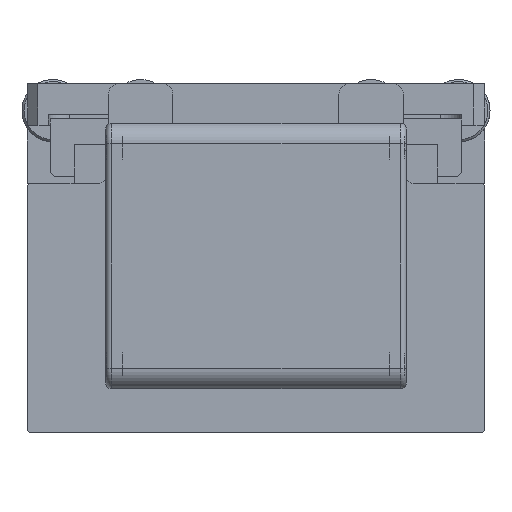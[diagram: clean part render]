
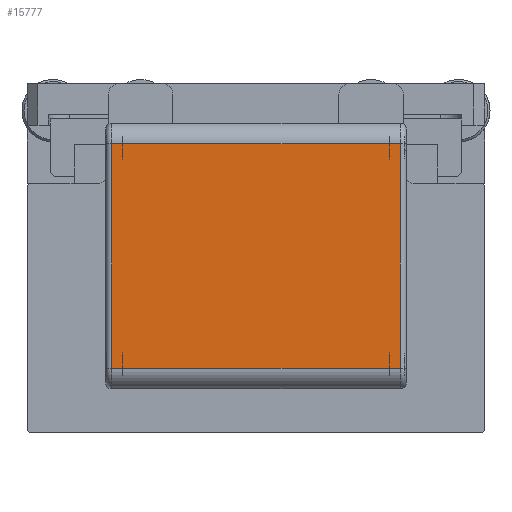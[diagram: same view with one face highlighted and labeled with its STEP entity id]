
A CAD part, front view. The second image highlights one B-rep face of the part: STEP entity #15777.
In plain terms, the highlighted planar face has unit normal (0, -1, 0) as drawn and (-1, 0, 0) by its records, which use the part's own axes.
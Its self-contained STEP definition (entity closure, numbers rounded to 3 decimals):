
#15578=CARTESIAN_POINT('',(-178.,142.,10.0));
#15579=VERTEX_POINT('',#15578);
#15622=CARTESIAN_POINT('',(-178.,142.,118.0));
#15623=VERTEX_POINT('',#15622);
#15640=CARTESIAN_POINT('',(-178.,142.,10.0));
#15641=DIRECTION('',(0.0,0.0,1.0));
#15642=VECTOR('',#15641,108.0);
#15643=LINE('',#15640,#15642);
#15644=EDGE_CURVE('',#15579,#15623,#15643,.T.);
#15747=CARTESIAN_POINT('',(-178.0,0.,0.0));
#15748=DIRECTION('',(-1.0,0.0,0.0));
#15749=DIRECTION('',(0.0,0.0,1.0));
#15750=AXIS2_PLACEMENT_3D('',#15747,#15748,#15749);
#15751=PLANE('',#15750);
#15752=ORIENTED_EDGE('',*,*,#15644,.F.);
#15753=CARTESIAN_POINT('',(-178.0,3.,10.0));
#15754=VERTEX_POINT('',#15753);
#15755=CARTESIAN_POINT('',(-178.0,3.,10.0));
#15756=DIRECTION('',(0.0,1.0,0.0));
#15757=VECTOR('',#15756,139.);
#15758=LINE('',#15755,#15757);
#15759=EDGE_CURVE('',#15754,#15579,#15758,.T.);
#15760=ORIENTED_EDGE('',*,*,#15759,.F.);
#15761=CARTESIAN_POINT('',(-178.0,3.,118.0));
#15762=VERTEX_POINT('',#15761);
#15763=CARTESIAN_POINT('',(-178.0,3.,118.0));
#15764=DIRECTION('',(0.0,0.0,-1.0));
#15765=VECTOR('',#15764,108.0);
#15766=LINE('',#15763,#15765);
#15767=EDGE_CURVE('',#15762,#15754,#15766,.T.);
#15768=ORIENTED_EDGE('',*,*,#15767,.F.);
#15769=CARTESIAN_POINT('',(-178.,142.,118.0));
#15770=DIRECTION('',(0.0,-1.0,0.0));
#15771=VECTOR('',#15770,139.0);
#15772=LINE('',#15769,#15771);
#15773=EDGE_CURVE('',#15623,#15762,#15772,.T.);
#15774=ORIENTED_EDGE('',*,*,#15773,.F.);
#15775=EDGE_LOOP('',(#15752,#15760,#15768,#15774));
#15776=FACE_OUTER_BOUND('',#15775,.T.);
#15777=ADVANCED_FACE('',(#15776),#15751,.T.);
